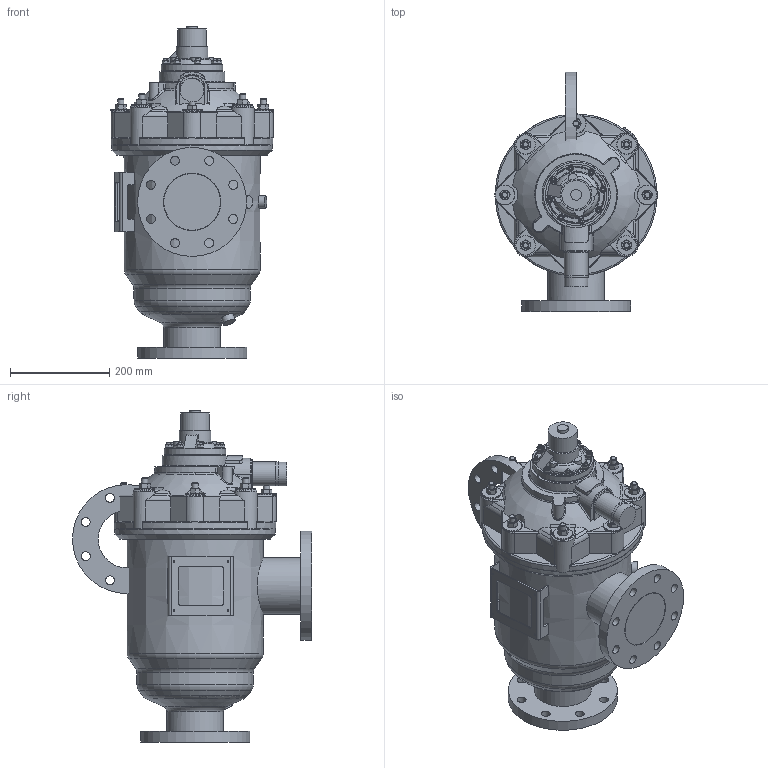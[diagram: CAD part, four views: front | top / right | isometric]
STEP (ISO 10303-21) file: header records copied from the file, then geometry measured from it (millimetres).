
FILE_DESCRIPTION( ( 'Unknown' ), '1' );
FILE_NAME( 'D:/SE/for Itzik/M104 c.stp', 'Unknown', ( 'Unknown' ), ( 'Unknown' ), 'XStep 1.0', 'Unknown', ' ' );
FILE_SCHEMA( ( 'automotive_design' ) );
Length unit declared in the file: millimetre
Products named in the file (4): Assem1; M100-1500_M104-C-FLANGED; Flat Face_AS-83011004220000
Bounding box: 327.58 x 482.5 x 670 mm (x, y, z)
Volume: 61288708.2 mm3; surface area: 1678910.6 mm2
Topology: 7 solids, 67 shells, 2230 faces, 5747 edges, 3781 vertices
Faces by surface type: plane 846, bspline 592, cylinder 510, cone 180, torus 66, sphere 18, revolution 16, extrusion 2
Full cylindrical faces by diameter (mm): 2 x2, 3 x8, 5 x4, 5.182 x6, 6 x26, 6.35 x8, 7.137 x10, 11.2 x16, 12 x16, 12.7 x48, 14 x16, 16 x8, 18 x24, 22 x2, 25 x8, 40 x14, 47.8 x2, 48.4 x4, 58 x2, 64 x2, 114.3 x4, 116 x3, 123 x2, 124 x2, 220 x3, 324 x2
Entity records: 83831 total; most frequent: CARTESIAN_POINT 52237, ORIENTED_EDGE 5100, DIRECTION 3567, EDGE_CURVE 2550, VERTEX_POINT 1772, AXIS2_PLACEMENT_3D 1507, EDGE_LOOP 1466, B_SPLINE_CURVE_WITH_KNOTS 1297
